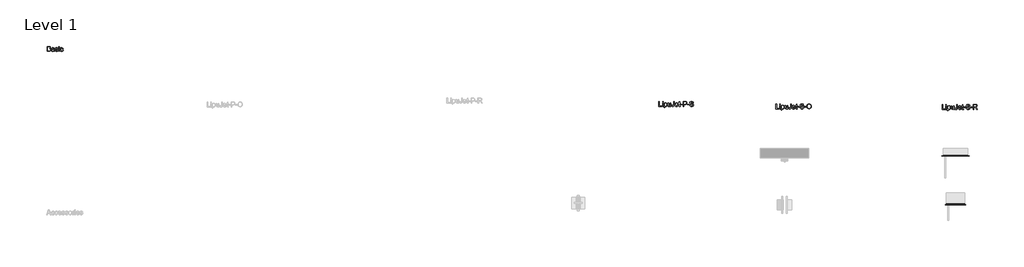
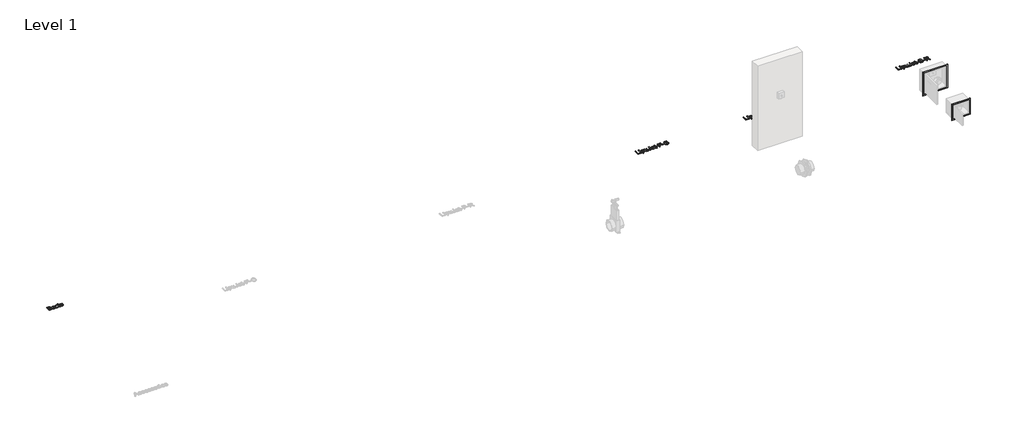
# One storey, part 2 of 3: 4 proxies, 2 furniture elements.
"""IFC4 building model written with IfcOpenShell, lengths in millimetres."""

from ifc_helpers import new_model, si_unit, origin, origin_with_axes, place, context, project, spatial, polyline, outline, extrude, transform, mapped, element, save
from components import std_dbb9a782, std_183a7562

model = new_model("IFC4")

# Units and contexts
model_context = context("Model", 3, world=origin())
ifc_project = project(units=[si_unit("LENGTHUNIT", "METRE", prefix="MILLI")], contexts=[model_context])

# Site, building, storey
site = spatial("IfcSite", under=ifc_project)
building = spatial("IfcBuilding", under=site)
storey = spatial("IfcBuildingStorey", under=building, Name="Level 1", Elevation=0.0)

# Proxies
placement = place(None, origin())
element("IfcBuildingElementProxy", 1, Name="100mm ACO", ObjectType="100mm ACO", at=placement, inside=storey, context=model_context, shape_type="SweptSolid", body=[
    extrude(outline(polyline([(-2942.8989889, 902.806713), (-2928.4024611, 893.5763889), (-2923.5992204, 878.8483796), (-2927.7369519, 863.5416667), (-2939.4991046, 853.2841435), (-2960.1732944, 850.0), (-2997.6732944, 850.0), (-2997.6732944, 950.0), (-2961.3017667, 950.0), (-2946.2518535, 948.0034722), (-2936.4030398, 942.0138889), (-2930.9668419, 933.5865162), (-2929.1547759, 924.2766204), (-2932.5691278, 912.0659722), (-2942.8989889, 902.806713)]), holes=[polyline([(-2984.7103315, 861.1111111), (-2960.0575537, 861.1111111), (-2948.8560201, 862.2793692), (-2941.6981787, 865.7841435), (-2936.5621833, 878.7037037), (-2937.9293708, 886.0930266), (-2942.0309333, 891.6521991), (-2949.6987574, 895.135272), (-2961.7647296, 896.2962963), (-2984.7103315, 896.2962963), (-2984.7103315, 861.1111111)]), polyline([(-2984.7103315, 907.4074074), (-2963.9059333, 907.4074074), (-2953.1420444, 908.1886574), (-2945.4597528, 912.3408565), (-2942.1177389, 922.8009259), (-2945.488688, 933.7818287), (-2953.5326694, 938.1076389), (-2965.5263037, 938.8888889), (-2984.7103315, 938.8888889), (-2984.7103315, 907.4074074)])]), origin_with_axes(), (0.0, 0.0, 1.0), 10.0),
    extrude(outline(polyline([(-2843.9695907, 850.0), (-2856.9325537, 850.0), (-2860.6362574, 858.7384259), (-2873.1290236, 850.7957176), (-2886.5911185, 848.1481481), (-2896.5773743, 849.5949074), (-2904.1981787, 853.9351852), (-2909.0267377, 860.6481481), (-2910.6362574, 869.212963), (-2909.0592898, 877.520978), (-2904.328387, 884.2158565), (-2895.6984681, 889.1095197), (-2882.4244519, 892.0138889), (-2871.0818593, 893.75), (-2860.6362574, 896.2962963), (-2860.969012, 904.3258102), (-2862.9076694, 909.2013889), (-2868.0726, 913.2667824), (-2877.6501463, 914.8148148), (-2889.7305861, 911.6753472), (-2895.8214426, 900.0), (-2908.7844056, 901.5914352), (-2905.2289947, 911.400463), (-2898.5558176, 918.431713), (-2888.7721081, 922.6634838), (-2875.8851, 924.0740741), (-2856.6287343, 920.2112269), (-2849.0766509, 910.8940972), (-2847.6732944, 896.8460648), (-2847.6732944, 880.3240741), (-2847.1235259, 860.0694444), (-2843.9695907, 850.0)]), holes=[polyline([(-2860.6362574, 882.4074074), (-2860.6362574, 887.037037), (-2883.9146139, 881.712963), (-2894.2336243, 877.6548032), (-2897.6732944, 869.4155093), (-2893.9695907, 860.7928241), (-2883.2925074, 857.4074074), (-2867.4794287, 863.0787037), (-2862.3470502, 870.7465278), (-2860.6362574, 882.4074074)])]), origin_with_axes(), (0.0, 0.0, 1.0), 10.0),
    extrude(outline(polyline([(-2788.4140352, 901.8518519), (-2793.2028083, 911.5740741), (-2804.2705167, 914.8148148), (-2815.5841741, 912.037037), (-2819.8955167, 903.9641204), (-2817.0454009, 896.8171296), (-2803.6050074, 892.9398148), (-2785.8822065, 888.7731481), (-2776.8399611, 882.4508102), (-2773.5992204, 871.1226852), (-2775.6102157, 862.1925637), (-2781.6432019, 854.7887731), (-2791.0399032, 849.8083044), (-2803.1420444, 848.1481481), (-2815.6167262, 849.5442708), (-2825.031512, 853.7326389), (-2831.3936359, 860.7060185), (-2834.7103315, 870.4571759), (-2821.7473685, 872.2222222), (-2816.1484102, 861.0966435), (-2803.1420444, 857.4074074), (-2790.8445907, 861.2413194), (-2786.5621833, 870.5729167), (-2788.4863731, 876.5480324), (-2793.2896139, 879.9189815), (-2806.8746833, 882.8125), (-2827.8092898, 890.625), (-2832.8584796, 903.2118056), (-2830.9885433, 911.4981192), (-2825.3787343, 918.1857639), (-2816.6077562, 922.6019965), (-2805.254313, 924.0740741), (-2793.322166, 922.7864583), (-2784.3775769, 918.9236111), (-2778.4205456, 912.4927662), (-2775.4510722, 903.5011574), (-2788.4140352, 901.8518519)])), origin_with_axes(), (0.0, 0.0, 1.0), 10.0),
    extrude(outline(polyline([(-2747.6732944, 937.037037), (-2760.6362574, 937.037037), (-2760.6362574, 950.0), (-2747.6732944, 950.0), (-2747.6732944, 937.037037)])), origin_with_axes(), (0.0, 0.0, 1.0), 10.0),
    extrude(outline(polyline([(-2747.6732944, 850.0), (-2760.6362574, 850.0), (-2760.6362574, 922.2222222), (-2747.6732944, 922.2222222), (-2747.6732944, 850.0)])), origin_with_axes(), (0.0, 0.0, 1.0), 10.0),
    extrude(outline(polyline([(-2668.0436648, 874.4502315), (-2672.0728894, 862.6446759), (-2679.2415815, 854.4849537), (-2688.5659449, 849.7323495), (-2699.0621833, 848.1481481), (-2713.3778662, 850.7378472), (-2724.0332481, 858.5069444), (-2730.6521718, 870.5512153), (-2732.8584796, 885.9664352), (-2727.8237574, 908.6516204), (-2715.2224843, 920.6163194), (-2699.3226, 924.0740741), (-2679.863688, 918.4172454), (-2673.327953, 911.433015), (-2669.8955167, 901.7939815), (-2682.8584796, 900.0), (-2688.7612574, 911.0966435), (-2699.1779241, 914.8148148), (-2708.1333639, 912.9304109), (-2714.629313, 907.2771991), (-2718.5789657, 898.2458044), (-2719.8955167, 886.2268519), (-2718.5753488, 873.9981192), (-2714.6148454, 864.916088), (-2708.165916, 859.2845775), (-2699.3804704, 857.4074074), (-2686.7791972, 862.037037), (-2681.0066278, 875.9259259), (-2668.0436648, 874.4502315)])), origin_with_axes(), (0.0, 0.0, 1.0), 10.0),
])
element("IfcBuildingElementProxy", 2, Name="100mm ACO", ObjectType="100mm ACO", at=placement, inside=storey, context=model_context, shape_type="SweptSolid", body=[
    extrude(outline(polyline([(9589.5407972, -279.7437154), (9526.5778343, -279.7437154), (9526.5778343, -179.7437154), (9539.5407972, -179.7437154), (9539.5407972, -268.6326043), (9589.5407972, -268.6326043), (9589.5407972, -279.7437154)])), origin_with_axes(), (0.0, 0.0, 1.0), 10.0),
    extrude(outline(polyline([(9615.4667231, -192.7066784), (9602.5037602, -192.7066784), (9602.5037602, -179.7437154), (9615.4667231, -179.7437154), (9615.4667231, -192.7066784)])), origin_with_axes(), (0.0, 0.0, 1.0), 10.0),
    extrude(outline(polyline([(9615.4667231, -279.7437154), (9602.5037602, -279.7437154), (9602.5037602, -207.5214932), (9615.4667231, -207.5214932), (9615.4667231, -279.7437154)])), origin_with_axes(), (0.0, 0.0, 1.0), 10.0),
    extrude(outline(polyline([(9647.078413, -216.230984), (9655.5347208, -208.309977), (9667.2028343, -205.6696414), (9679.5292231, -208.2593404), (9688.9620935, -216.0284377), (9694.9516769, -227.9569678), (9696.9482046, -243.0249654), (9694.6912602, -258.913999), (9687.9204269, -271.164433), (9677.86545, -278.9877837), (9665.756075, -281.5955673), (9655.3828111, -279.4688312), (9647.2954269, -273.0886228), (9646.9482046, -307.5214932), (9633.9852417, -307.5214932), (9633.9852417, -207.5214932), (9646.9482046, -207.5214932), (9647.078413, -216.230984)]), holes=[polyline([(9664.3382509, -272.336308), (9672.110965, -270.5097745), (9678.4152185, -265.0301738), (9682.5927359, -255.9336749), (9683.9852417, -243.2564469), (9682.6433725, -231.179624), (9678.6177648, -222.2639701), (9672.50159, -216.762668), (9664.8880194, -214.9289006), (9657.0067984, -216.9724481), (9650.6663759, -223.1030904), (9646.4888586, -232.4889411), (9645.0963528, -244.2981136), (9646.4309882, -256.4111055), (9650.4348944, -265.2037849), (9656.5800044, -270.5531772), (9664.3382509, -272.336308)])]), origin_with_axes(), (0.0, 0.0, 1.0), 10.0),
    extrude(outline(polyline([(9771.0222787, -279.7437154), (9759.9111676, -279.7437154), (9759.9111676, -269.2402432), (9749.668112, -278.5067363), (9736.7051491, -281.5955673), (9722.5847787, -278.0799423), (9713.9331583, -268.4011228), (9711.7630194, -252.3999654), (9711.7630194, -207.5214932), (9724.7259824, -207.5214932), (9724.7259824, -248.4937154), (9725.6229731, -262.5851506), (9730.3104731, -269.5874654), (9739.3382509, -272.336308), (9752.0842, -267.4173265), (9756.5655368, -259.8652432), (9758.0593157, -247.0469562), (9758.0593157, -207.5214932), (9771.0222787, -207.5214932), (9771.0222787, -279.7437154)])), origin_with_axes(), (0.0, 0.0, 1.0), 10.0),
    extrude(outline(polyline([(9839.5407972, -247.8571414), (9837.667244, -263.5580962), (9832.0465843, -273.9132756), (9823.0839106, -279.6749944), (9811.1843157, -281.5955673), (9799.2847208, -279.7328647), (9790.7850102, -274.1447571), (9785.6851838, -264.8167768), (9783.9852417, -251.7344562), (9796.9482046, -250.1140858), (9800.8110519, -265.3918636), (9811.8787602, -270.4844562), (9821.8179963, -267.2437154), (9825.8255194, -259.7639701), (9826.5778343, -249.1881599), (9826.5778343, -179.7437154), (9839.5407972, -179.7437154), (9839.5407972, -247.8571414)])), origin_with_axes(), (0.0, 0.0, 1.0), 10.0),
    extrude(outline(polyline([(9921.0222787, -246.4103821), (9867.318575, -246.4103821), (9869.3910576, -257.5359608), (9874.1038759, -265.6812154), (9880.88556, -270.6725349), (9889.1646398, -272.336308), (9900.839987, -268.6470719), (9908.0593157, -257.5214932), (9921.0222787, -259.0261228), (9916.6458319, -268.6470719), (9909.7086213, -275.7506599), (9900.4638296, -280.1343404), (9889.1646398, -281.5955673), (9874.5776896, -279.0890569), (9863.5714685, -271.5695256), (9856.6595762, -259.7097166), (9854.355612, -244.1823728), (9856.5763875, -228.6441784), (9863.2387139, -216.3467247), (9873.9374986, -208.3389122), (9888.2676491, -205.6696414), (9903.4875565, -209.127396), (9915.9152185, -220.9040164), (9919.7455137, -231.4400407), (9921.0222787, -246.4103821)]), holes=[polyline([(9908.0593157, -237.1511228), (9905.9759824, -226.9948728), (9901.230612, -220.137234), (9887.949362, -214.9289006), (9880.0934593, -216.476933), (9873.7711213, -221.1210303), (9867.318575, -237.1511228), (9908.0593157, -237.1511228)])]), origin_with_axes(), (0.0, 0.0, 1.0), 10.0),
    extrude(outline(polyline([(9963.6148713, -280.7564469), (9954.5292231, -281.5955673), (9942.9406815, -278.7165164), (9938.4991306, -271.4103821), (9937.6889454, -259.0839932), (9937.6889454, -216.7807525), (9928.4296861, -216.7807525), (9928.4296861, -207.5214932), (9937.6889454, -207.5214932), (9937.6889454, -189.1765858), (9950.6519083, -181.5955673), (9950.6519083, -207.5214932), (9961.7630194, -207.5214932), (9961.7630194, -216.7807525), (9950.6519083, -216.7807525), (9950.6519083, -261.6881599), (9951.693575, -269.9057525), (9956.9887139, -272.336308), (9962.0234361, -272.336308), (9963.6148713, -280.7564469)])), origin_with_axes(), (0.0, 0.0, 1.0), 10.0),
    extrude(outline(polyline([(10008.0593157, -246.4103821), (9969.1704269, -246.4103821), (9969.1704269, -237.1511228), (10008.0593157, -237.1511228), (10008.0593157, -246.4103821)])), origin_with_axes(), (0.0, 0.0, 1.0), 10.0),
    extrude(outline(polyline([(10022.8741306, -179.7437154), (10060.4320009, -179.7437154), (10075.7387139, -180.6262386), (10087.6600102, -185.2124654), (10095.9788759, -195.2674423), (10098.8000565, -208.5631599), (10096.5756641, -220.9944388), (10089.902487, -230.684109), (10078.3247961, -236.9232583), (10061.386862, -239.0029747), (10035.8370935, -239.0029747), (10035.8370935, -279.7437154), (10022.8741306, -279.7437154), (10022.8741306, -179.7437154)]), holes=[polyline([(10035.8370935, -227.8918636), (10061.9076954, -227.8918636), (10079.854744, -223.153727), (10084.3415061, -217.2310563), (10085.8370935, -208.9393173), (10082.7265611, -197.9584145), (10075.0876722, -192.0267015), (10061.6183435, -190.8548265), (10035.8370935, -190.8548265), (10035.8370935, -227.8918636)])]), origin_with_axes(), (0.0, 0.0, 1.0), 10.0),
    extrude(outline(polyline([(10146.9482046, -246.4103821), (10108.0593157, -246.4103821), (10108.0593157, -237.1511228), (10146.9482046, -237.1511228), (10146.9482046, -246.4103821)])), origin_with_axes(), (0.0, 0.0, 1.0), 10.0),
    extrude(outline(polyline([(10219.1704269, -209.3733451), (10217.1594315, -200.4793925), (10212.6889454, -194.1100349), (10196.3695009, -189.0029747), (10180.7445009, -192.9815627), (10176.230612, -197.8679921), (10174.7259824, -204.5701043), (10179.1964685, -214.6250812), (10197.3822324, -220.918484), (10217.2173019, -226.4017015), (10230.3683435, -235.3282062), (10234.469906, -242.4100928), (10235.8370935, -251.5608451), (10233.3305831, -263.3989527), (10225.8110519, -273.0452201), (10214.2622961, -279.4579805), (10199.668112, -281.5955673), (10181.6848944, -279.2228821), (10168.881075, -272.1048265), (10161.068575, -261.2107293), (10158.0593157, -247.5099191), (10171.0222787, -246.4103821), (10173.6517637, -257.2863948), (10179.8619778, -264.7408219), (10188.69806, -269.0485476), (10199.2051491, -270.4844562), (10216.3347787, -265.7535534), (10221.2392926, -260.1799134), (10222.8741306, -252.9207988), (10221.1850391, -245.5929631), (10216.1177648, -240.5654747), (10192.8394083, -233.1146645), (10178.6286155, -228.7743867), (10169.0402185, -222.9005441), (10163.5823192, -215.2725059), (10161.7630194, -205.6696414), (10164.0452822, -194.674271), (10170.8920704, -185.762234), (10181.6740437, -179.8594562), (10195.761862, -177.8918636), (10210.323494, -179.8739238), (10221.7167231, -185.8201043), (10229.2254037, -195.4121182), (10232.1333898, -208.3316784), (10219.1704269, -209.3733451)])), origin_with_axes(), (0.0, 0.0, 1.0), 10.0),
])
element("IfcBuildingElementProxy", 3, Name="100mm ACO", ObjectType="100mm ACO", at=placement, inside=storey, context=model_context, shape_type="SweptSolid", body=[
    extrude(outline(polyline([(11986.0783229, -329.9153706), (11923.1153599, -329.9153706), (11923.1153599, -229.9153706), (11936.0783229, -229.9153706), (11936.0783229, -318.8042595), (11986.0783229, -318.8042595), (11986.0783229, -329.9153706)])), origin_with_axes(), (0.0, 0.0, 1.0), 10.0),
    extrude(outline(polyline([(12012.0042488, -329.9153706), (11999.0412858, -329.9153706), (11999.0412858, -257.6931484), (12012.0042488, -257.6931484), (12012.0042488, -329.9153706)])), origin_with_axes(), (0.0, 0.0, 1.0), 10.0),
    extrude(outline(polyline([(12012.0042488, -242.8783336), (11999.0412858, -242.8783336), (11999.0412858, -229.9153706), (12012.0042488, -229.9153706), (12012.0042488, -242.8783336)])), origin_with_axes(), (0.0, 0.0, 1.0), 10.0),
    extrude(outline(polyline([(12043.6159386, -266.4026392), (12052.0722465, -258.4816322), (12063.7403599, -255.8412966), (12076.0667488, -258.4309956), (12085.4996191, -266.2000929), (12091.4892025, -278.128623), (12093.4857303, -293.1966206), (12091.2287858, -309.0856542), (12084.4579525, -321.3360882), (12074.4029756, -329.1594389), (12062.2936006, -331.7672225), (12051.9203367, -329.6404864), (12043.8329525, -323.260278), (12043.4857303, -357.6931484), (12030.5227673, -357.6931484), (12030.5227673, -257.6931484), (12043.4857303, -257.6931484), (12043.6159386, -266.4026392)]), holes=[polyline([(12060.8757766, -322.5079632), (12068.6484907, -320.6814297), (12074.9527441, -315.201829), (12079.1302615, -306.1053301), (12080.5227673, -293.4281021), (12079.1808981, -281.3512792), (12075.1552904, -272.4356253), (12069.0391157, -266.9343232), (12061.4255451, -265.1005558), (12053.544324, -267.1441033), (12047.2039016, -273.2747456), (12043.0263842, -282.6605963), (12041.6338784, -294.4697688), (12042.9685138, -306.5827607), (12046.9724201, -315.3754401), (12053.11753, -320.7248324), (12060.8757766, -322.5079632)])]), origin_with_axes(), (0.0, 0.0, 1.0), 10.0),
    extrude(outline(polyline([(12167.5598043, -329.9153706), (12156.4486932, -329.9153706), (12156.4486932, -319.4118984), (12146.2056377, -328.6783915), (12133.2426747, -331.7672225), (12119.1223043, -328.2515975), (12110.470684, -318.572778), (12108.3005451, -302.5716206), (12108.3005451, -257.6931484), (12121.263508, -257.6931484), (12121.263508, -298.6653706), (12122.1604988, -312.7568058), (12126.8479988, -319.7591206), (12135.8757766, -322.5079632), (12148.6217256, -317.5889818), (12153.1030624, -310.0368984), (12154.5968414, -297.2186114), (12154.5968414, -257.6931484), (12167.5598043, -257.6931484), (12167.5598043, -329.9153706)])), origin_with_axes(), (0.0, 0.0, 1.0), 10.0),
    extrude(outline(polyline([(12236.0783229, -298.0287966), (12234.2047696, -313.7297514), (12228.5841099, -324.0849308), (12219.6214363, -329.8466496), (12207.7218414, -331.7672225), (12195.8222465, -329.9045199), (12187.3225358, -324.3164123), (12182.2227094, -314.988432), (12180.5227673, -301.9061114), (12193.4857303, -300.285741), (12197.3485775, -315.5635188), (12208.4162858, -320.6561114), (12218.3555219, -317.4153706), (12222.3630451, -309.9356253), (12223.1153599, -299.3598151), (12223.1153599, -229.9153706), (12236.0783229, -229.9153706), (12236.0783229, -298.0287966)])), origin_with_axes(), (0.0, 0.0, 1.0), 10.0),
    extrude(outline(polyline([(12317.5598043, -296.5820373), (12263.8561006, -296.5820373), (12265.9285833, -307.707616), (12270.6414016, -315.8528706), (12277.4230856, -320.8441901), (12285.7021654, -322.5079632), (12297.3775127, -318.8187271), (12304.5968414, -307.6931484), (12317.5598043, -309.197778), (12313.1833576, -318.8187271), (12306.2461469, -325.9223151), (12297.0013553, -330.3059956), (12285.7021654, -331.7672225), (12271.1152152, -329.2607121), (12260.1089941, -321.7411808), (12253.1971018, -309.8813718), (12250.8931377, -294.354028), (12253.1139131, -278.8158336), (12259.7762395, -266.5183799), (12270.4750242, -258.5105674), (12284.8051747, -255.8412966), (12300.0250821, -259.2990512), (12312.4527441, -271.0756716), (12316.2830393, -281.6116959), (12317.5598043, -296.5820373)]), holes=[polyline([(12304.5968414, -287.322778), (12302.513508, -277.166528), (12297.7681377, -270.3088892), (12284.4868877, -265.1005558), (12276.6309849, -266.6485882), (12270.3086469, -271.2926855), (12263.8561006, -287.322778), (12304.5968414, -287.322778)])]), origin_with_axes(), (0.0, 0.0, 1.0), 10.0),
    extrude(outline(polyline([(12360.1523969, -330.9281021), (12351.0667488, -331.7672225), (12339.4782071, -328.8881716), (12335.0366562, -321.5820373), (12334.226471, -309.2556484), (12334.226471, -266.9524077), (12324.9672117, -266.9524077), (12324.9672117, -257.6931484), (12334.226471, -257.6931484), (12334.226471, -239.348241), (12347.189434, -231.7672225), (12347.189434, -257.6931484), (12358.3005451, -257.6931484), (12358.3005451, -266.9524077), (12347.189434, -266.9524077), (12347.189434, -311.8598151), (12348.2311006, -320.0774077), (12353.5262395, -322.5079632), (12358.5609617, -322.5079632), (12360.1523969, -330.9281021)])), origin_with_axes(), (0.0, 0.0, 1.0), 10.0),
    extrude(outline(polyline([(12404.5968414, -296.5820373), (12365.7079525, -296.5820373), (12365.7079525, -287.322778), (12404.5968414, -287.322778), (12404.5968414, -296.5820373)])), origin_with_axes(), (0.0, 0.0, 1.0), 10.0),
    extrude(outline(polyline([(12476.8190636, -259.5450003), (12474.8080682, -250.6510477), (12470.3375821, -244.2816901), (12454.0181377, -239.1746299), (12438.3931377, -243.1532179), (12433.8792488, -248.0396473), (12432.3746191, -254.7417595), (12436.8451053, -264.7967364), (12455.0308691, -271.0901392), (12474.8659386, -276.5733568), (12488.0169803, -285.4998614), (12492.1185428, -292.581748), (12493.4857303, -301.7325003), (12490.9792198, -313.5706079), (12483.4596886, -323.2168753), (12471.9109328, -329.6296357), (12457.3167488, -331.7672225), (12439.3335312, -329.3945373), (12426.5297117, -322.2764818), (12418.7172117, -311.3823845), (12415.7079525, -297.6815743), (12428.6709154, -296.5820373), (12431.3004004, -307.45805), (12437.5106145, -314.9124771), (12446.3466967, -319.2202028), (12456.8537858, -320.6561114), (12473.9834154, -315.9252086), (12478.8879293, -310.3515686), (12480.5227673, -303.092454), (12478.8336759, -295.7646183), (12473.7664016, -290.7371299), (12450.4880451, -283.2863197), (12436.2772522, -278.9460419), (12426.6888553, -273.0721993), (12421.230956, -265.4441611), (12419.4116562, -255.8412966), (12421.6939189, -244.8459262), (12428.5407071, -235.9338892), (12439.3226805, -230.0311114), (12453.4104988, -228.0635188), (12467.9721307, -230.045579), (12479.3653599, -235.9917595), (12486.8740404, -245.5837734), (12489.7820266, -258.5033336), (12476.8190636, -259.5450003)])), origin_with_axes(), (0.0, 0.0, 1.0), 10.0),
    extrude(outline(polyline([(12543.4857303, -296.5820373), (12504.5968414, -296.5820373), (12504.5968414, -287.322778), (12543.4857303, -287.322778), (12543.4857303, -296.5820373)])), origin_with_axes(), (0.0, 0.0, 1.0), 10.0),
    extrude(outline(polyline([(12600.9799432, -228.0635188), (12619.4695266, -231.6370142), (12634.2554062, -242.3575003), (12643.955927, -258.9301276), (12647.189434, -280.0600466), (12643.9378425, -301.0995431), (12634.1830682, -317.5745142), (12619.3791041, -328.2190454), (12600.9799432, -331.7672225), (12582.1069687, -328.0888371), (12567.3283229, -317.0536808), (12557.7797117, -300.7233857), (12554.5968414, -281.1595836), (12557.8231145, -259.0784204), (12567.501934, -242.2562271), (12582.3239826, -231.6116959), (12600.9799432, -228.0635188)]), holes=[polyline([(12600.8642025, -320.6561114), (12614.304596, -317.972373), (12624.9382766, -309.9211577), (12631.8754872, -297.088403), (12634.226471, -280.0600466), (12631.8718703, -262.6519158), (12624.8080682, -249.7793753), (12614.1780046, -241.8258162), (12601.1246191, -239.1746299), (12587.778265, -241.7715628), (12577.0216099, -249.5623614), (12569.9252557, -262.7206368), (12567.5598043, -281.4200003), (12569.8746191, -297.3018), (12576.8190636, -309.8198845), (12587.4599779, -317.9470547), (12600.8642025, -320.6561114)])]), origin_with_axes(), (0.0, 0.0, 1.0), 10.0),
])
element("IfcBuildingElementProxy", 4, Name="100mm ACO", ObjectType="100mm ACO", at=placement, inside=storey, context=model_context, shape_type="SweptSolid", body=[
    extrude(outline(polyline([(15389.3588798, -339.9576853), (15326.3959168, -339.9576853), (15326.3959168, -239.9576853), (15339.3588798, -239.9576853), (15339.3588798, -328.8465742), (15389.3588798, -328.8465742), (15389.3588798, -339.9576853)])), origin_with_axes(), (0.0, 0.0, 1.0), 10.0),
    extrude(outline(polyline([(15415.2848057, -339.9576853), (15402.3218427, -339.9576853), (15402.3218427, -267.7354631), (15415.2848057, -267.7354631), (15415.2848057, -339.9576853)])), origin_with_axes(), (0.0, 0.0, 1.0), 10.0),
    extrude(outline(polyline([(15415.2848057, -252.9206483), (15402.3218427, -252.9206483), (15402.3218427, -239.9576853), (15415.2848057, -239.9576853), (15415.2848057, -252.9206483)])), origin_with_axes(), (0.0, 0.0, 1.0), 10.0),
    extrude(outline(polyline([(15446.8964955, -276.4449538), (15455.3528034, -268.5239469), (15467.0209168, -265.8836112), (15479.3473057, -268.4733103), (15488.780176, -276.2424075), (15494.7697594, -288.1709376), (15496.7662872, -303.2389353), (15494.5093427, -319.1279689), (15487.7385094, -331.3784029), (15477.6835325, -339.2017536), (15465.5741575, -341.8095372), (15455.2008936, -339.6828011), (15447.1135094, -333.3025927), (15446.7662872, -367.7354631), (15433.8033242, -367.7354631), (15433.8033242, -267.7354631), (15446.7662872, -267.7354631), (15446.8964955, -276.4449538)]), holes=[polyline([(15464.1563335, -332.5502779), (15471.9290476, -330.7237443), (15478.233301, -325.2441437), (15482.4108184, -316.1476448), (15483.8033242, -303.4704168), (15482.461455, -291.3935939), (15478.4358473, -282.4779399), (15472.3196726, -276.9766379), (15464.706102, -275.1428705), (15456.8248809, -277.186418), (15450.4844585, -283.3170603), (15446.3069411, -292.702911), (15444.9144353, -304.5120835), (15446.2490707, -316.6250754), (15450.252977, -325.4177548), (15456.3980869, -330.7671471), (15464.1563335, -332.5502779)])]), origin_with_axes(), (0.0, 0.0, 1.0), 10.0),
    extrude(outline(polyline([(15570.8403612, -339.9576853), (15559.7292501, -339.9576853), (15559.7292501, -329.4542131), (15549.4861946, -338.7207062), (15536.5232316, -341.8095372), (15522.4028612, -338.2939122), (15513.7512409, -328.6150927), (15511.581102, -312.6139353), (15511.581102, -267.7354631), (15524.5440649, -267.7354631), (15524.5440649, -308.7076853), (15525.4410557, -322.7991205), (15530.1285557, -329.8014353), (15539.1563335, -332.5502779), (15551.9022825, -327.6312964), (15556.3836193, -320.0792131), (15557.8773983, -307.2609261), (15557.8773983, -267.7354631), (15570.8403612, -267.7354631), (15570.8403612, -339.9576853)])), origin_with_axes(), (0.0, 0.0, 1.0), 10.0),
    extrude(outline(polyline([(15639.3588798, -308.0711112), (15637.4853265, -323.7720661), (15631.8646668, -334.1272455), (15622.9019932, -339.8889643), (15611.0023983, -341.8095372), (15599.1028034, -339.9468346), (15590.6030927, -334.358727), (15585.5032663, -325.0307467), (15583.8033242, -311.9484261), (15596.7662872, -310.3280557), (15600.6291344, -325.6058335), (15611.6968427, -330.6984261), (15621.6360788, -327.4576853), (15625.643602, -319.9779399), (15626.3959168, -309.4021298), (15626.3959168, -239.9576853), (15639.3588798, -239.9576853), (15639.3588798, -308.0711112)])), origin_with_axes(), (0.0, 0.0, 1.0), 10.0),
    extrude(outline(polyline([(15720.8403612, -306.624352), (15667.1366575, -306.624352), (15669.2091402, -317.7499307), (15673.9219585, -325.8951853), (15680.7036425, -330.8865048), (15688.9827223, -332.5502779), (15700.6580696, -328.8610418), (15707.8773983, -317.7354631), (15720.8403612, -319.2400927), (15716.4639145, -328.8610418), (15709.5267038, -335.9646298), (15700.2819122, -340.3483103), (15688.9827223, -341.8095372), (15674.3957721, -339.3030268), (15663.389551, -331.7834955), (15656.4776587, -319.9236865), (15654.1736946, -304.3963427), (15656.39447, -288.8581483), (15663.0567964, -276.5606946), (15673.7555811, -268.5528821), (15688.0857316, -265.8836112), (15703.305639, -269.3413659), (15715.733301, -281.1179862), (15719.5635962, -291.6540106), (15720.8403612, -306.624352)]), holes=[polyline([(15707.8773983, -297.3650927), (15705.7940649, -287.2088427), (15701.0486946, -280.3512038), (15687.7674446, -275.1428705), (15679.9115418, -276.6909029), (15673.5892038, -281.3350001), (15667.1366575, -297.3650927), (15707.8773983, -297.3650927)])]), origin_with_axes(), (0.0, 0.0, 1.0), 10.0),
    extrude(outline(polyline([(15763.4329538, -340.9704168), (15754.3473057, -341.8095372), (15742.758764, -338.9304862), (15738.3172131, -331.624352), (15737.5070279, -319.2979631), (15737.5070279, -276.9947224), (15728.2477686, -276.9947224), (15728.2477686, -267.7354631), (15737.5070279, -267.7354631), (15737.5070279, -249.3905557), (15750.4699909, -241.8095372), (15750.4699909, -267.7354631), (15761.581102, -267.7354631), (15761.581102, -276.9947224), (15750.4699909, -276.9947224), (15750.4699909, -321.9021298), (15751.5116575, -330.1197224), (15756.8067964, -332.5502779), (15761.8415186, -332.5502779), (15763.4329538, -340.9704168)])), origin_with_axes(), (0.0, 0.0, 1.0), 10.0),
    extrude(outline(polyline([(15807.8773983, -306.624352), (15768.9885094, -306.624352), (15768.9885094, -297.3650927), (15807.8773983, -297.3650927), (15807.8773983, -306.624352)])), origin_with_axes(), (0.0, 0.0, 1.0), 10.0),
    extrude(outline(polyline([(15880.0996205, -269.5873149), (15878.0886251, -260.6933624), (15873.618139, -254.3240048), (15857.2986946, -249.2169446), (15841.6736946, -253.1955325), (15837.1598057, -258.0819619), (15835.655176, -264.7840742), (15840.1256622, -274.8390511), (15858.311426, -281.1324538), (15878.1464955, -286.6156714), (15891.2975372, -295.5421761), (15895.3990997, -302.6240626), (15896.7662872, -311.7748149), (15894.2597767, -323.6129226), (15886.7402455, -333.2591899), (15875.1914897, -339.6719504), (15860.5973057, -341.8095372), (15842.6140881, -339.436852), (15829.8102686, -332.3187964), (15821.9977686, -321.4246992), (15818.9885094, -307.723889), (15831.9514723, -306.624352), (15834.5809573, -317.5003647), (15840.7911714, -324.9547918), (15849.6272536, -329.2625175), (15860.1343427, -330.6984261), (15877.2639723, -325.9675233), (15882.1684862, -320.3938832), (15883.8033242, -313.1347687), (15882.1142328, -305.806933), (15877.0469585, -300.7794446), (15853.768602, -293.3286344), (15839.5578091, -288.9883566), (15829.9694122, -283.114514), (15824.5115129, -275.4864758), (15822.6922131, -265.8836112), (15824.9744758, -254.8882409), (15831.821264, -245.9762038), (15842.6032374, -240.0734261), (15856.6910557, -238.1058335), (15871.2526876, -240.0878937), (15882.6459168, -246.0340742), (15890.1545973, -255.6260881), (15893.0625835, -268.5456483), (15880.0996205, -269.5873149)])), origin_with_axes(), (0.0, 0.0, 1.0), 10.0),
    extrude(outline(polyline([(15946.7662872, -306.624352), (15907.8773983, -306.624352), (15907.8773983, -297.3650927), (15946.7662872, -297.3650927), (15946.7662872, -306.624352)])), origin_with_axes(), (0.0, 0.0, 1.0), 10.0),
    extrude(outline(polyline([(16049.081102, -339.9576853), (16034.092676, -339.9576853), (16015.3282085, -310.0965742), (16007.5591112, -300.9675233), (15999.8334168, -296.4536344), (15990.2558705, -295.5132409), (15974.5440649, -295.5132409), (15974.5440649, -339.9576853), (15961.581102, -339.9576853), (15961.581102, -239.9576853), (16005.7072594, -239.9576853), (16020.883764, -241.1006251), (16031.6187177, -245.9038659), (16038.7223057, -255.1341899), (16041.2107316, -266.8674075), (16039.3950487, -276.9187675), (16033.9480001, -284.7927548), (16025.0793659, -290.3374596), (16012.998926, -293.4009724), (16022.6560441, -300.8879515), (16031.7199909, -312.5560649), (16049.081102, -339.9576853)]), holes=[polyline([(15974.5440649, -284.4021298), (16003.305639, -284.4021298), (16017.0932548, -282.9264353), (16025.2095742, -277.1828011), (16028.2477686, -267.5907872), (16023.1985788, -255.8865048), (16016.5109341, -252.2732235), (16006.5463798, -251.0687964), (15974.5440649, -251.0687964), (15974.5440649, -284.4021298)])]), origin_with_axes(), (0.0, 0.0, 1.0), 10.0),
])

# Furniture
std_shape = std_dbb9a782(model_context)
element("IfcFurniture", 5, ObjectType="ZZZ_do not use_GM_ST_WPB_flushframe_ACO : std", at=placement, inside=storey, context=model_context, shape_type="MappedRepresentation", body=[
    mapped(std_shape, transform((15600.0, -1300.0, 250.0), x_axis=(1.0, 0.0, 0.0), y_axis=(0.0, 0.0, 1.0), z_axis=(0.0, -1.0, 0.0))),
])
std_2_shape = std_183a7562(model_context)
element("IfcFurniture", 6, ObjectType="ZZZ_do not use_GM_ST_WPB_flushframe_ACO : std", at=placement, inside=storey, context=model_context, shape_type="MappedRepresentation", body=[
    mapped(std_2_shape, transform((15600.0, -2300.0, 165.0), x_axis=(1.0, 0.0, 0.0), y_axis=(0.0, 0.0, 1.0), z_axis=(0.0, -1.0, 0.0))),
])

save(model, "model.ifc")
